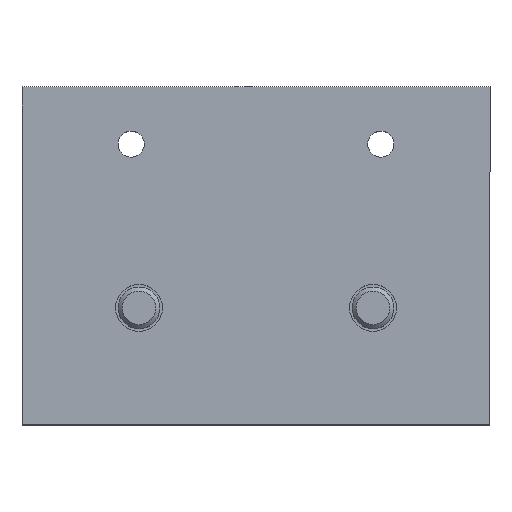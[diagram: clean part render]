
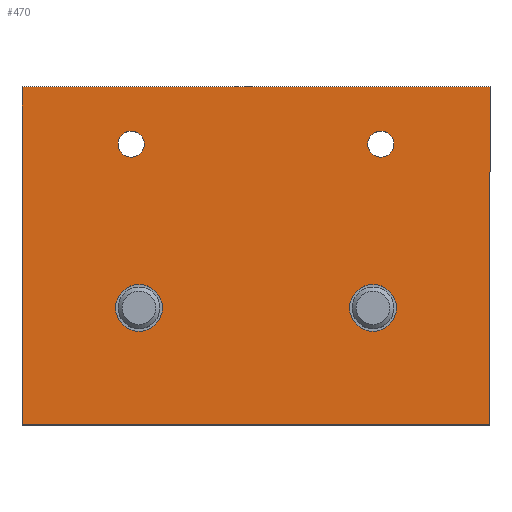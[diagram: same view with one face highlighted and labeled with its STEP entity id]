
A CAD part, top view. The second image highlights one B-rep face of the part: STEP entity #470.
In plain terms, the highlighted planar face has unit normal (0, 0, 1).
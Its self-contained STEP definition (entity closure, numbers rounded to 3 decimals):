
#160=CARTESIAN_POINT('',(18.0,0.,12.));
#161=VERTEX_POINT('',#160);
#162=CARTESIAN_POINT('',(22.5,0.0,12.));
#163=DIRECTION('',(0.0,0.0,-1.0));
#164=DIRECTION('',(1.0,0.0,0.0));
#165=AXIS2_PLACEMENT_3D('',#162,#163,#164);
#166=CIRCLE('',#165,4.5);
#167=EDGE_CURVE('',#161,#161,#166,.T.);
#228=CARTESIAN_POINT('',(-27.0,0.,12.));
#229=VERTEX_POINT('',#228);
#230=CARTESIAN_POINT('',(-22.5,0.0,12.));
#231=DIRECTION('',(0.0,0.0,-1.0));
#232=DIRECTION('',(1.0,0.0,0.0));
#233=AXIS2_PLACEMENT_3D('',#230,#231,#232);
#234=CIRCLE('',#233,4.5);
#235=EDGE_CURVE('',#229,#229,#234,.T.);
#248=CARTESIAN_POINT('',(26.5,31.5,12.));
#249=VERTEX_POINT('',#248);
#250=CARTESIAN_POINT('',(24.,31.5,12.));
#251=DIRECTION('',(0.0,0.0,-1.0));
#252=DIRECTION('',(-1.0,0.0,0.0));
#253=AXIS2_PLACEMENT_3D('',#250,#251,#252);
#254=CIRCLE('',#253,2.5);
#255=EDGE_CURVE('',#249,#249,#254,.T.);
#276=CARTESIAN_POINT('',(-21.5,31.5,12.));
#277=VERTEX_POINT('',#276);
#278=CARTESIAN_POINT('',(-24.,31.5,12.));
#279=DIRECTION('',(0.0,0.0,-1.0));
#280=DIRECTION('',(-1.0,0.0,0.0));
#281=AXIS2_PLACEMENT_3D('',#278,#279,#280);
#282=CIRCLE('',#281,2.5);
#283=EDGE_CURVE('',#277,#277,#282,.T.);
#304=CARTESIAN_POINT('',(-45.0,-22.5,12.));
#305=VERTEX_POINT('',#304);
#306=CARTESIAN_POINT('',(-45.,42.5,12.));
#307=VERTEX_POINT('',#306);
#308=CARTESIAN_POINT('',(-45.,-22.5,12.));
#309=DIRECTION('',(0.0,1.0,0.0));
#310=VECTOR('',#309,65.0);
#311=LINE('',#308,#310);
#312=EDGE_CURVE('',#305,#307,#311,.T.);
#344=CARTESIAN_POINT('',(45.,42.5,12.));
#345=VERTEX_POINT('',#344);
#346=CARTESIAN_POINT('',(-45.,42.5,12.));
#347=DIRECTION('',(1.0,0.0,0.0));
#348=VECTOR('',#347,90.);
#349=LINE('',#346,#348);
#350=EDGE_CURVE('',#307,#345,#349,.T.);
#375=CARTESIAN_POINT('',(45.0,-22.5,12.));
#376=VERTEX_POINT('',#375);
#377=CARTESIAN_POINT('',(45.,42.5,12.));
#378=DIRECTION('',(0.0,-1.0,0.0));
#379=VECTOR('',#378,65.0);
#380=LINE('',#377,#379);
#381=EDGE_CURVE('',#345,#376,#380,.T.);
#406=CARTESIAN_POINT('',(45.0,-22.5,12.));
#407=DIRECTION('',(-1.0,0.0,0.0));
#408=VECTOR('',#407,90.0);
#409=LINE('',#406,#408);
#410=EDGE_CURVE('',#376,#305,#409,.T.);
#447=CARTESIAN_POINT('',(0.,10.,12.));
#448=DIRECTION('',(0.0,0.0,1.0));
#449=DIRECTION('',(1.0,0.0,0.0));
#450=AXIS2_PLACEMENT_3D('',#447,#448,#449);
#451=PLANE('',#450);
#452=ORIENTED_EDGE('',*,*,#312,.F.);
#453=ORIENTED_EDGE('',*,*,#410,.F.);
#454=ORIENTED_EDGE('',*,*,#381,.F.);
#455=ORIENTED_EDGE('',*,*,#350,.F.);
#456=EDGE_LOOP('',(#452,#453,#454,#455));
#457=FACE_OUTER_BOUND('',#456,.T.);
#458=ORIENTED_EDGE('',*,*,#167,.T.);
#459=EDGE_LOOP('',(#458));
#460=FACE_BOUND('',#459,.T.);
#461=ORIENTED_EDGE('',*,*,#235,.T.);
#462=EDGE_LOOP('',(#461));
#463=FACE_BOUND('',#462,.T.);
#464=ORIENTED_EDGE('',*,*,#255,.T.);
#465=EDGE_LOOP('',(#464));
#466=FACE_BOUND('',#465,.T.);
#467=ORIENTED_EDGE('',*,*,#283,.T.);
#468=EDGE_LOOP('',(#467));
#469=FACE_BOUND('',#468,.T.);
#470=ADVANCED_FACE('',(#457,#460,#463,#466,#469),#451,.T.);
